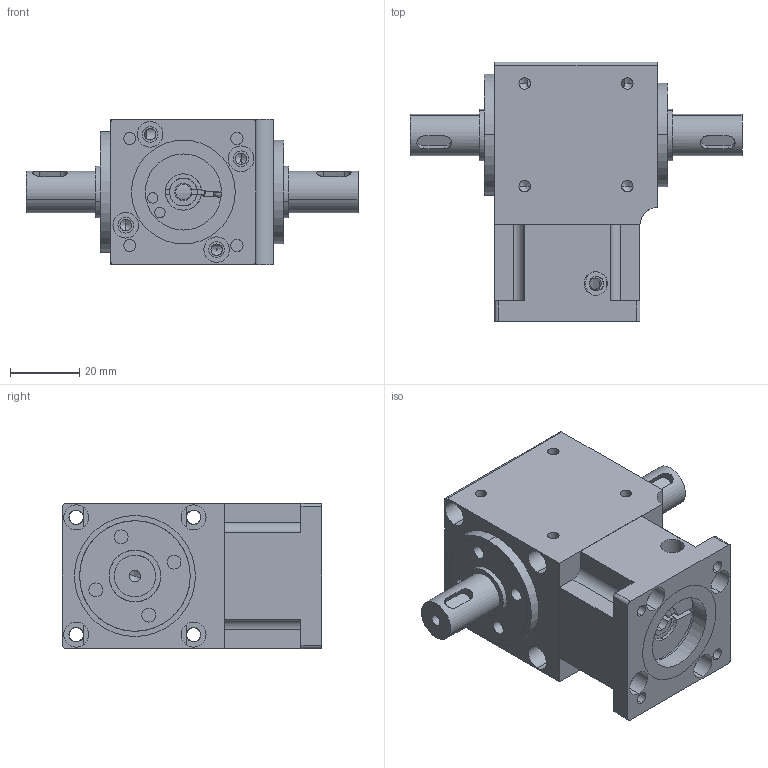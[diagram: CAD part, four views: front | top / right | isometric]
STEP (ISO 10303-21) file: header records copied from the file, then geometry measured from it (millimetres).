
FILE_DESCRIPTION (( 'STEP AP203' ), '1' );
FILE_NAME ('×°ÅäÌå6.STEP', '2025-10-18T03:56:35', ( 'Microsoft' ), ( 'JSSM8' ), 'SwSTEP 2.0', 'SolidWorks 2015', '' );
FILE_SCHEMA (( 'CONFIG_CONTROL_DESIGN' ));
Length unit declared in the file: millimetre
Products named in the file (14): 输入轴; 褲极; 蹟譫; 61902_Rolling bearings 61902 GB 276-94; 標杶ㄗ1ㄘ; 6001_Rolling bearings 6001 GB 276-94; 砦諳30-22; 綴楊擘ㄗ祭輛ㄘ; PVFH040-L1-()-P()-5-22-3.5-43.8双轴（配42步进尺寸）; 蚾饜极6; 8-5粣杶; 6002_Rolling bearings 6002 GB 276-94; 蹟譫ㄗ2ㄘ; 怀堤粣ㄗ邧粣ㄘ
Assembly tree (13 placements, depth 3):
  蚾饜极6
    PVFH040-L1-()-P()-5-22-3.5-43.8双轴（配42步进尺寸）
      褲极
      输入轴
      蹟譫
      蹟譫ㄗ2ㄘ
      標杶ㄗ1ㄘ
      6001_Rolling bearings 6001 GB 276-94
      6002_Rolling bearings 6002 GB 276-94
      61902_Rolling bearings 61902 GB 276-94
      綴楊擘ㄗ祭輛ㄘ
      8-5粣杶
      怀堤粣ㄗ邧粣ㄘ
    砦諳30-22
Bounding box: 96 x 75 x 42 mm (x, y, z)
Volume: 101420.1 mm3; surface area: 58556.3 mm2
Topology: 12 solids, 12 shells, 693 faces, 2098 edges, 1354 vertices
Faces by surface type: bspline 275, cylinder 255, plane 111, cone 52
Entity records: 32162 total; most frequent: CARTESIAN_POINT 13554, ORIENTED_EDGE 4128, DIRECTION 3035, EDGE_CURVE 2064, VERTEX_POINT 1354, AXIS2_PLACEMENT_3D 1311, CIRCLE 876, EDGE_LOOP 830
